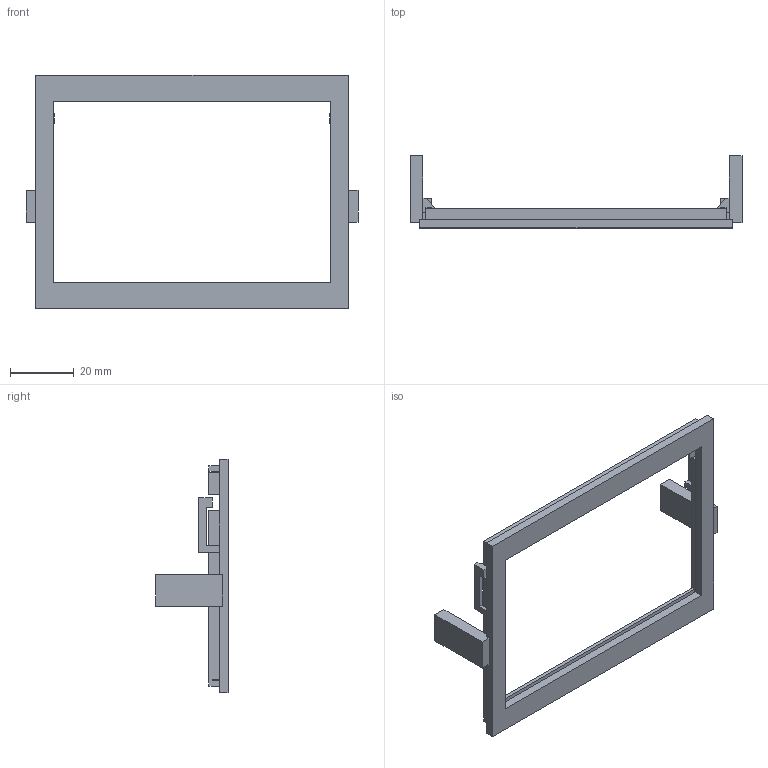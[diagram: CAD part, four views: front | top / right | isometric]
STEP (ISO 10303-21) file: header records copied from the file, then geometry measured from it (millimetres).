
FILE_DESCRIPTION(('Open CASCADE Model'),'2;1');
FILE_NAME('Open CASCADE Shape Model','2026-11-04T22:00:12',('Author'),( 'Open CASCADE'),'Open CASCADE STEP processor 7.8','Open CASCADE 7.8' ,'Unknown');
FILE_SCHEMA(('AUTOMOTIVE_DESIGN { 1 0 10303 214 1 1 1 1 }'));
Length unit declared in the file: millimetre
Products named in the file (1): Open CASCADE STEP translator 7.8 3
Bounding box: 104 x 22.6 x 73 mm (x, y, z)
Volume: 9876.1 mm3; surface area: 10454.7 mm2
Topology: 1 solids, 1 shells, 78 faces, 220 edges, 146 vertices
Faces by surface type: plane 78
Entity records: 5205 total; most frequent: CARTESIAN_POINT 1030, DIRECTION 673, LINE 515, VECTOR 515, ORIENTED_EDGE 440, PCURVE 440, DEFINITIONAL_REPRESENTATION 440, EDGE_CURVE 220
